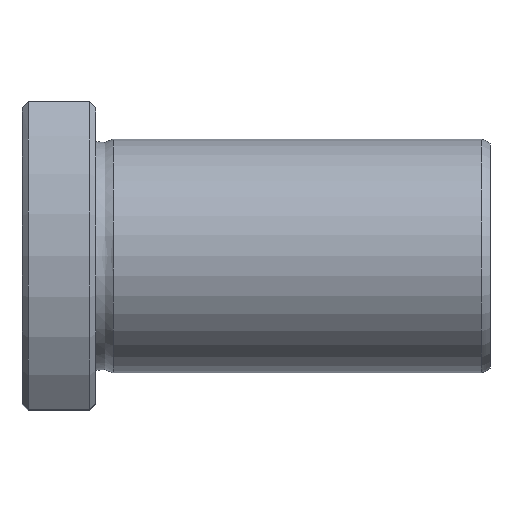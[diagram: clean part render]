
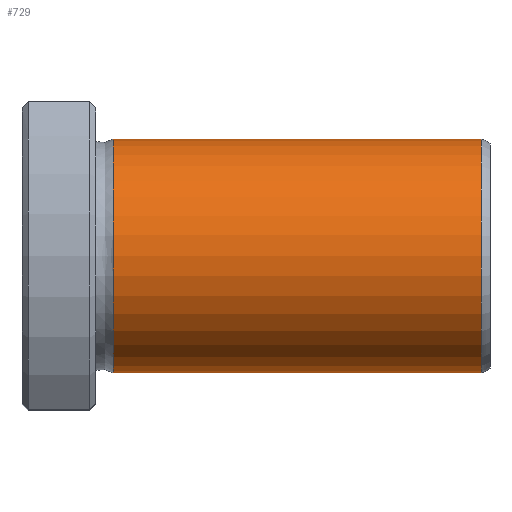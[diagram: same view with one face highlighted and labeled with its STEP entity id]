
A CAD part, top view. The second image highlights one B-rep face of the part: STEP entity #729.
In plain terms, the highlighted cylindrical face has radius 9.5 mm (diameter 19 mm), a full revolution.
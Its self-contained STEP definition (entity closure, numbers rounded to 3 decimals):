
#695=CARTESIAN_POINT('',(37.304,0.0,9.5));
#696=VERTEX_POINT('',#695);
#697=CARTESIAN_POINT('',(37.304,0.0,0.0));
#698=DIRECTION('',(-1.0,0.0,0.0));
#699=DIRECTION('',(0.0,0.0,1.0));
#700=AXIS2_PLACEMENT_3D('',#697,#698,#699);
#701=CIRCLE('',#700,9.5);
#702=EDGE_CURVE('',#696,#696,#701,.T.);
#710=CARTESIAN_POINT('',(22.352,0.0,0.0));
#711=DIRECTION('',(-1.0,0.0,0.0));
#712=DIRECTION('',(0.0,0.0,1.0));
#713=AXIS2_PLACEMENT_3D('',#710,#711,#712);
#714=CYLINDRICAL_SURFACE('',#713,9.5);
#715=CARTESIAN_POINT('',(7.4,0.0,9.5));
#716=VERTEX_POINT('',#715);
#717=CARTESIAN_POINT('',(7.4,0.0,0.0));
#718=DIRECTION('',(-1.0,0.0,0.0));
#719=DIRECTION('',(0.0,0.0,1.0));
#720=AXIS2_PLACEMENT_3D('',#717,#718,#719);
#721=CIRCLE('',#720,9.5);
#722=EDGE_CURVE('',#716,#716,#721,.T.);
#723=ORIENTED_EDGE('',*,*,#722,.F.);
#724=EDGE_LOOP('',(#723));
#725=FACE_OUTER_BOUND('',#724,.T.);
#726=ORIENTED_EDGE('',*,*,#702,.T.);
#727=EDGE_LOOP('',(#726));
#728=FACE_BOUND('',#727,.T.);
#729=ADVANCED_FACE('',(#725,#728),#714,.T.);
